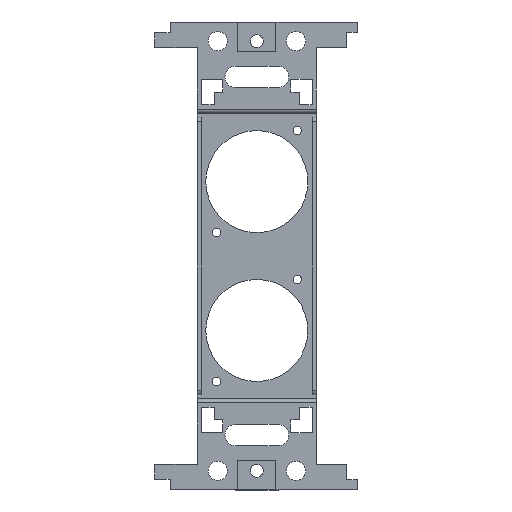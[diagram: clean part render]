
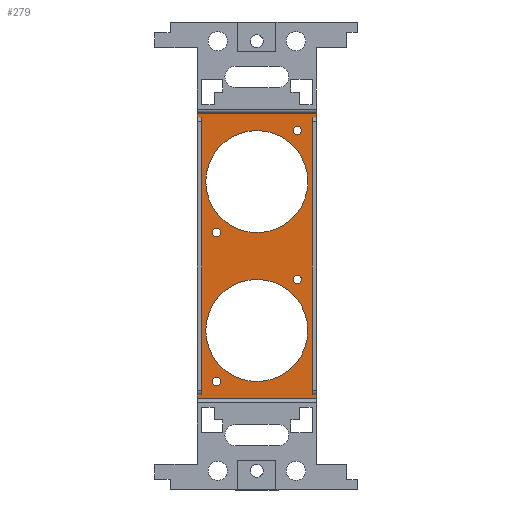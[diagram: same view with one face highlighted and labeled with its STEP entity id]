
A CAD part, top view. The second image highlights one B-rep face of the part: STEP entity #279.
In plain terms, the highlighted planar face has unit normal (0, 0, 1).
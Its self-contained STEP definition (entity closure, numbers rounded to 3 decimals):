
#22 = VERTEX_POINT('',#23);
#23 = CARTESIAN_POINT('',(-14.,33.5,1.));
#156 = VERTEX_POINT('',#157);
#157 = CARTESIAN_POINT('',(-14.,-33.5,1.));
#163 = EDGE_CURVE('',#164,#156,#166,.T.);
#164 = VERTEX_POINT('',#165);
#165 = CARTESIAN_POINT('',(-14.,-32.6,1.));
#166 = LINE('',#167,#168);
#167 = CARTESIAN_POINT('',(-14.,34.5,1.));
#168 = VECTOR('',#169,1.);
#169 = DIRECTION('',(0.,-1.,0.));
#206 = VERTEX_POINT('',#207);
#207 = CARTESIAN_POINT('',(-14.,32.6,1.));
#213 = EDGE_CURVE('',#22,#206,#214,.T.);
#214 = LINE('',#215,#216);
#215 = CARTESIAN_POINT('',(-14.,34.5,1.));
#216 = VECTOR('',#217,1.);
#217 = DIRECTION('',(0.,-1.,0.));
#237 = VERTEX_POINT('',#238);
#238 = CARTESIAN_POINT('',(14.,33.5,1.));
#244 = EDGE_CURVE('',#22,#237,#245,.T.);
#245 = LINE('',#246,#247);
#246 = CARTESIAN_POINT('',(-14.,33.5,1.));
#247 = VECTOR('',#248,1.);
#248 = DIRECTION('',(1.,0.,0.));
#279 = ADVANCED_FACE('',(#280,#353,#364,#375,#386,#397,#408),#419,.T.);
#280 = FACE_BOUND('',#281,.T.);
#281 = EDGE_LOOP('',(#282,#290,#291,#299,#307,#315,#323,#331,#337,#338,
    #339,#347));
#282 = ORIENTED_EDGE('',*,*,#283,.F.);
#283 = EDGE_CURVE('',#164,#284,#286,.T.);
#284 = VERTEX_POINT('',#285);
#285 = CARTESIAN_POINT('',(-13.,-32.6,1.));
#286 = LINE('',#287,#288);
#287 = CARTESIAN_POINT('',(-14.,-32.6,1.));
#288 = VECTOR('',#289,1.);
#289 = DIRECTION('',(1.,0.,0.));
#290 = ORIENTED_EDGE('',*,*,#163,.T.);
#291 = ORIENTED_EDGE('',*,*,#292,.F.);
#292 = EDGE_CURVE('',#293,#156,#295,.T.);
#293 = VERTEX_POINT('',#294);
#294 = CARTESIAN_POINT('',(14.,-33.5,1.));
#295 = LINE('',#296,#297);
#296 = CARTESIAN_POINT('',(14.,-33.5,1.));
#297 = VECTOR('',#298,1.);
#298 = DIRECTION('',(-1.,0.,0.));
#299 = ORIENTED_EDGE('',*,*,#300,.T.);
#300 = EDGE_CURVE('',#293,#301,#303,.T.);
#301 = VERTEX_POINT('',#302);
#302 = CARTESIAN_POINT('',(14.,-32.6,1.));
#303 = LINE('',#304,#305);
#304 = CARTESIAN_POINT('',(14.,-34.5,1.));
#305 = VECTOR('',#306,1.);
#306 = DIRECTION('',(0.,1.,0.));
#307 = ORIENTED_EDGE('',*,*,#308,.F.);
#308 = EDGE_CURVE('',#309,#301,#311,.T.);
#309 = VERTEX_POINT('',#310);
#310 = CARTESIAN_POINT('',(13.,-32.6,1.));
#311 = LINE('',#312,#313);
#312 = CARTESIAN_POINT('',(13.,-32.6,1.));
#313 = VECTOR('',#314,1.);
#314 = DIRECTION('',(1.,0.,0.));
#315 = ORIENTED_EDGE('',*,*,#316,.F.);
#316 = EDGE_CURVE('',#317,#309,#319,.T.);
#317 = VERTEX_POINT('',#318);
#318 = CARTESIAN_POINT('',(13.,32.6,1.));
#319 = LINE('',#320,#321);
#320 = CARTESIAN_POINT('',(13.,32.6,1.));
#321 = VECTOR('',#322,1.);
#322 = DIRECTION('',(0.,-1.,0.));
#323 = ORIENTED_EDGE('',*,*,#324,.F.);
#324 = EDGE_CURVE('',#325,#317,#327,.T.);
#325 = VERTEX_POINT('',#326);
#326 = CARTESIAN_POINT('',(14.,32.6,1.));
#327 = LINE('',#328,#329);
#328 = CARTESIAN_POINT('',(14.,32.6,1.));
#329 = VECTOR('',#330,1.);
#330 = DIRECTION('',(-1.,0.,0.));
#331 = ORIENTED_EDGE('',*,*,#332,.T.);
#332 = EDGE_CURVE('',#325,#237,#333,.T.);
#333 = LINE('',#334,#335);
#334 = CARTESIAN_POINT('',(14.,-34.5,1.));
#335 = VECTOR('',#336,1.);
#336 = DIRECTION('',(0.,1.,0.));
#337 = ORIENTED_EDGE('',*,*,#244,.F.);
#338 = ORIENTED_EDGE('',*,*,#213,.T.);
#339 = ORIENTED_EDGE('',*,*,#340,.F.);
#340 = EDGE_CURVE('',#341,#206,#343,.T.);
#341 = VERTEX_POINT('',#342);
#342 = CARTESIAN_POINT('',(-13.,32.6,1.));
#343 = LINE('',#344,#345);
#344 = CARTESIAN_POINT('',(-13.,32.6,1.));
#345 = VECTOR('',#346,1.);
#346 = DIRECTION('',(-1.,0.,0.));
#347 = ORIENTED_EDGE('',*,*,#348,.F.);
#348 = EDGE_CURVE('',#284,#341,#349,.T.);
#349 = LINE('',#350,#351);
#350 = CARTESIAN_POINT('',(-13.,-32.6,1.));
#351 = VECTOR('',#352,1.);
#352 = DIRECTION('',(0.,1.,0.));
#353 = FACE_BOUND('',#354,.T.);
#354 = EDGE_LOOP('',(#355));
#355 = ORIENTED_EDGE('',*,*,#356,.T.);
#356 = EDGE_CURVE('',#357,#357,#359,.T.);
#357 = VERTEX_POINT('',#358);
#358 = CARTESIAN_POINT('',(-8.5,-29.5,1.));
#359 = CIRCLE('',#360,1.);
#360 = AXIS2_PLACEMENT_3D('',#361,#362,#363);
#361 = CARTESIAN_POINT('',(-9.5,-29.5,1.));
#362 = DIRECTION('',(0.,0.,-1.));
#363 = DIRECTION('',(1.,0.,0.));
#364 = FACE_BOUND('',#365,.T.);
#365 = EDGE_LOOP('',(#366));
#366 = ORIENTED_EDGE('',*,*,#367,.T.);
#367 = EDGE_CURVE('',#368,#368,#370,.T.);
#368 = VERTEX_POINT('',#369);
#369 = CARTESIAN_POINT('',(12.,-17.5,1.));
#370 = CIRCLE('',#371,12.);
#371 = AXIS2_PLACEMENT_3D('',#372,#373,#374);
#372 = CARTESIAN_POINT('',(0.,-17.5,1.));
#373 = DIRECTION('',(0.,0.,-1.));
#374 = DIRECTION('',(1.,0.,0.));
#375 = FACE_BOUND('',#376,.T.);
#376 = EDGE_LOOP('',(#377));
#377 = ORIENTED_EDGE('',*,*,#378,.T.);
#378 = EDGE_CURVE('',#379,#379,#381,.T.);
#379 = VERTEX_POINT('',#380);
#380 = CARTESIAN_POINT('',(10.5,-5.5,1.));
#381 = CIRCLE('',#382,1.);
#382 = AXIS2_PLACEMENT_3D('',#383,#384,#385);
#383 = CARTESIAN_POINT('',(9.5,-5.5,1.));
#384 = DIRECTION('',(0.,0.,-1.));
#385 = DIRECTION('',(1.,0.,0.));
#386 = FACE_BOUND('',#387,.T.);
#387 = EDGE_LOOP('',(#388));
#388 = ORIENTED_EDGE('',*,*,#389,.T.);
#389 = EDGE_CURVE('',#390,#390,#392,.T.);
#390 = VERTEX_POINT('',#391);
#391 = CARTESIAN_POINT('',(-8.5,5.5,1.));
#392 = CIRCLE('',#393,1.);
#393 = AXIS2_PLACEMENT_3D('',#394,#395,#396);
#394 = CARTESIAN_POINT('',(-9.5,5.5,1.));
#395 = DIRECTION('',(0.,0.,-1.));
#396 = DIRECTION('',(1.,0.,0.));
#397 = FACE_BOUND('',#398,.T.);
#398 = EDGE_LOOP('',(#399));
#399 = ORIENTED_EDGE('',*,*,#400,.T.);
#400 = EDGE_CURVE('',#401,#401,#403,.T.);
#401 = VERTEX_POINT('',#402);
#402 = CARTESIAN_POINT('',(12.,17.5,1.));
#403 = CIRCLE('',#404,12.);
#404 = AXIS2_PLACEMENT_3D('',#405,#406,#407);
#405 = CARTESIAN_POINT('',(0.,17.5,1.));
#406 = DIRECTION('',(0.,0.,-1.));
#407 = DIRECTION('',(1.,0.,0.));
#408 = FACE_BOUND('',#409,.T.);
#409 = EDGE_LOOP('',(#410));
#410 = ORIENTED_EDGE('',*,*,#411,.T.);
#411 = EDGE_CURVE('',#412,#412,#414,.T.);
#412 = VERTEX_POINT('',#413);
#413 = CARTESIAN_POINT('',(10.5,29.5,1.));
#414 = CIRCLE('',#415,1.);
#415 = AXIS2_PLACEMENT_3D('',#416,#417,#418);
#416 = CARTESIAN_POINT('',(9.5,29.5,1.));
#417 = DIRECTION('',(0.,0.,-1.));
#418 = DIRECTION('',(1.,0.,0.));
#419 = PLANE('',#420);
#420 = AXIS2_PLACEMENT_3D('',#421,#422,#423);
#421 = CARTESIAN_POINT('',(0.,0.,1.));
#422 = DIRECTION('',(0.,0.,1.));
#423 = DIRECTION('',(1.,0.,0.));
